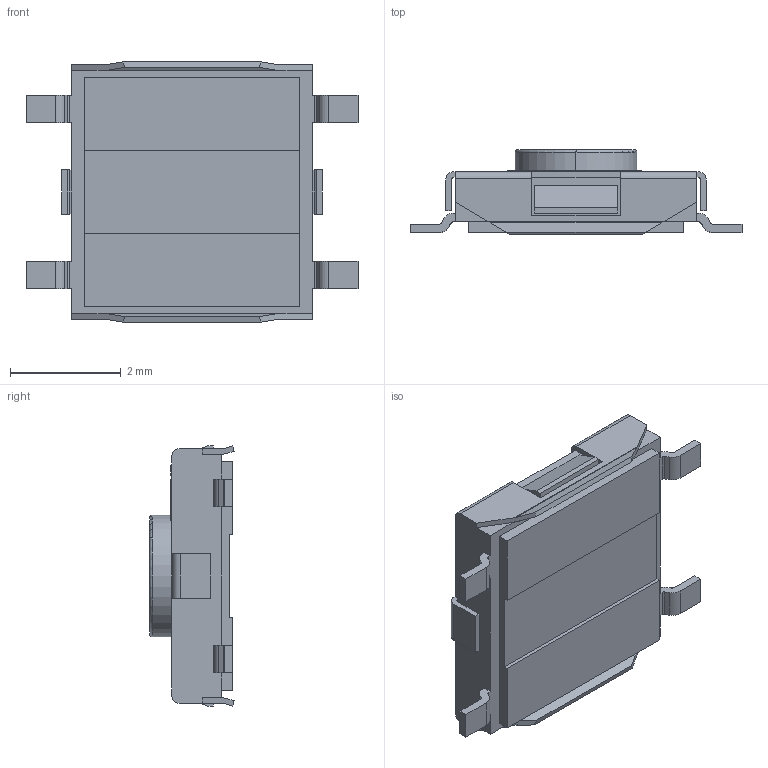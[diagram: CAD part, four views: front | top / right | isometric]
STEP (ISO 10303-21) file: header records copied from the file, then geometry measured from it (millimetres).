
FILE_DESCRIPTION((''),'2;1');
FILE_NAME('ASM0004_ASM','2024-01-06T',('WYH'),(''),'PRO/ENGINEER BY PARAMETRIC TECHNOLOGY CORPORATION, 2013040','PRO/ENGINEER BY PARAMETRIC TECHNOLOGY CORPORATION, 2013040','');
FILE_SCHEMA(('CONFIG_CONTROL_DESIGN'));
Length unit declared in the file: millimetre
Products named in the file (1): ASM0004_ASM
Bounding box: 6 x 1.53 x 4.7 mm (x, y, z)
Volume: 22.7 mm3; surface area: 73.1 mm2
Topology: 1 solids, 1 shells, 189 faces, 530 edges, 352 vertices
Faces by surface type: plane 146, cylinder 41, torus 2
Entity records: 6077 total; most frequent: CARTESIAN_POINT 1100, ORIENTED_EDGE 1060, DIRECTION 976, EDGE_CURVE 530, VECTOR 442, LINE 442, VERTEX_POINT 352, AXIS2_PLACEMENT_3D 267
